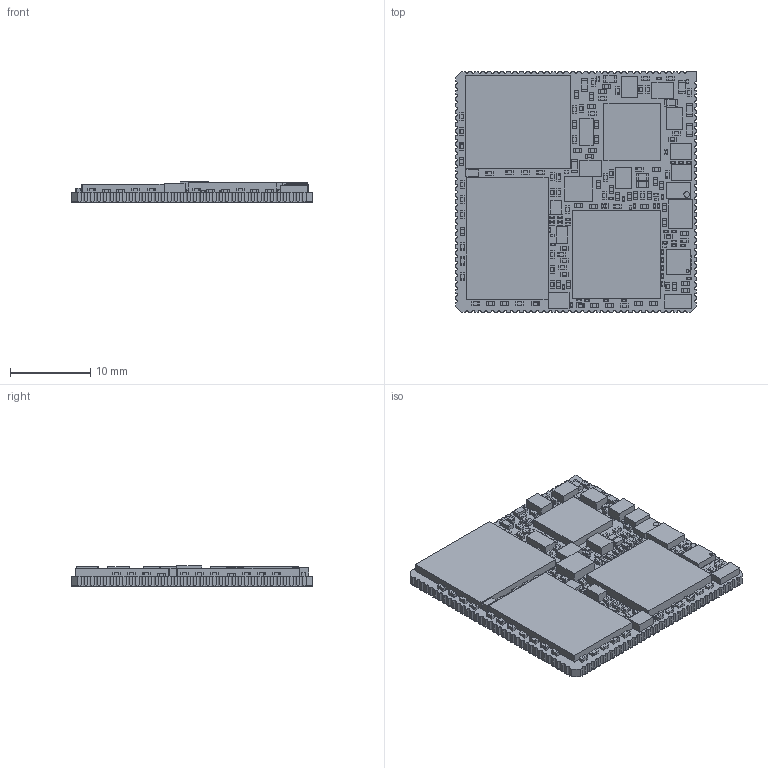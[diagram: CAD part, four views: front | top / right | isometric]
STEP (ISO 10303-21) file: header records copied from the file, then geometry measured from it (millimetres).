
FILE_DESCRIPTION (( 'STEP AP214' ), '1' );
FILE_NAME ('mcm-imx93.STEP', '2024-11-18T09:55:07', ( '' ), ( '' ), 'SwSTEP 2.0', 'SolidWorks 2015', '' );
FILE_SCHEMA (( 'AUTOMOTIVE_DESIGN' ));
Length unit declared in the file: millimetre
Products named in the file (24): 151B10400S-Samsung_-_CL05A104KO5NNNC; 139A10260S_LED-0603_139A10260S; 141B32301I_XTAL3_2x1_5_141B32301I; 111S31000S_MO-229VCED-21; 131D31540S_SOT-563-6_131D31540S; 106C20000S_SC_70-MAA05A_106C20000S; 117A63200S_SOT23-5_117A63200S; MCM-iMX93_board; RC0201JR-07100RL; 115A01148S_BGA-306-11x11_115A01148S; 161C10021S-RC0402FR-0710K0; QFN 3x3 16 AB1805-T3; mcm-imx93; 151C10500S_RC0402_SAMSUNG; 111M33201S_MO-276BA_111M33201S; RC0402FR-072K15L; 106N20190S_SC70-6_106N20190S; 106C20320S_SC70_106C20320S; RC0603FR-0712K4L; 141B24605I_OSC3225_141B24605I; 151B10600S_RC0402_SAMSUNG; 147AR4700S_Ind2_5x2x1_2_147AR4700S; 111L53000S_BGA-200-08-10x15_111L53000S; 123M0R603S_QFN7x7-56-4_7x4_7_123M0R603S
Assembly tree (175 placements, depth 2):
  mcm-imx93
    MCM-iMX93_board
    106C20000S_SC_70-MAA05A_106C20000S
    106C20320S_SC70_106C20320S
    106N20190S_SC70-6_106N20190S
    111L53000S_BGA-200-08-10x15_111L53000S
    111M33201S_MO-276BA_111M33201S
    111S31000S_MO-229VCED-21
    115A01148S_BGA-306-11x11_115A01148S
    QFN 3x3 16 AB1805-T3
    117A63200S_SOT23-5_117A63200S
    123M0R603S_QFN7x7-56-4_7x4_7_123M0R603S
    131D31540S_SOT-563-6_131D31540S
    139A10260S_LED-0603_139A10260S
    141B24605I_OSC3225_141B24605I
    141B32301I_XTAL3_2x1_5_141B32301I  x2
    147AR4700S_Ind2_5x2x1_2_147AR4700S  x6
    151B10400S-Samsung_-_CL05A104KO5NNNC  x10
    RC0201JR-07100RL  x49
    151B10600S_RC0402_SAMSUNG  x21
    RC0603FR-0712K4L  x9
    RC0402FR-072K15L  x40
    151C10500S_RC0402_SAMSUNG  x18
    161C10021S-RC0402FR-0710K0  x6
Bounding box: 30 x 30 x 2.5 mm (x, y, z)
Volume: 1681.1 mm3; surface area: 4092.7 mm2
Topology: 351 solids, 663 shells, 7887 faces, 17541 edges, 10814 vertices
Faces by surface type: plane 4665, cylinder 2342, sphere 880
Full cylindrical faces by diameter (mm): 0.375 x1, 0.7 x1
Entity records: 63446 total; most frequent: CARTESIAN_POINT 8847, DIRECTION 8495, ORIENTED_EDGE 8482, EDGE_CURVE 4255, VECTOR 3651, LINE 3651, VERTEX_POINT 2774, AXIS2_PLACEMENT_3D 2422
